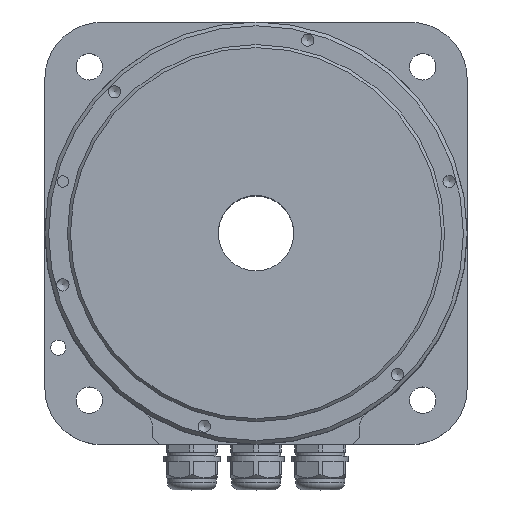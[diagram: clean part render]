
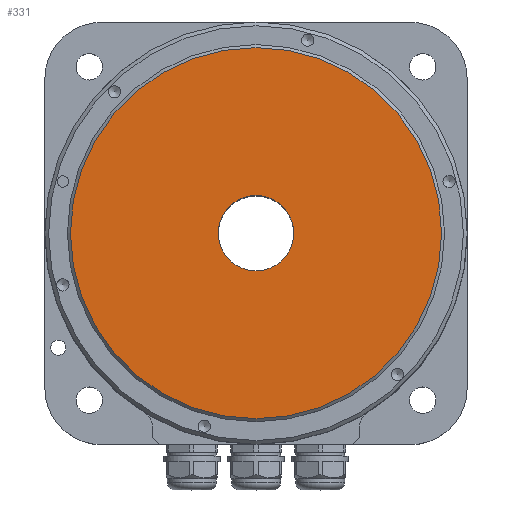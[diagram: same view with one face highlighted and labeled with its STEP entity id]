
A CAD part, top view. The second image highlights one B-rep face of the part: STEP entity #331.
In plain terms, the highlighted planar face has unit normal (0, 0, 1).
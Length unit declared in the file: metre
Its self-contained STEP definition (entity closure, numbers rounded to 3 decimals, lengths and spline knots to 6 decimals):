
#331 = ADVANCED_FACE( '', ( #645, #646 ), #647, .T. );
#645 = FACE_OUTER_BOUND( '', #1057, .T. );
#646 = FACE_BOUND( '', #1058, .T. );
#647 = PLANE( '', #1059 );
#1057 = EDGE_LOOP( '', ( #1794 ) );
#1058 = EDGE_LOOP( '', ( #1795 ) );
#1059 = AXIS2_PLACEMENT_3D( '', #1796, #1797, #1798 );
#1794 = ORIENTED_EDGE( '', *, *, #2373, .T. );
#1795 = ORIENTED_EDGE( '', *, *, #2392, .T. );
#1796 = CARTESIAN_POINT( '', ( -0.05, 0., 0.013 ) );
#1797 = DIRECTION( '', ( 0., 0., 1. ) );
#1798 = DIRECTION( '', ( 1., 0., 0. ) );
#2373 = EDGE_CURVE( '', #2807, #2807, #2808, .T. );
#2392 = EDGE_CURVE( '', #2841, #2841, #2842, .T. );
#2807 = VERTEX_POINT( '', #3518 );
#2808 = CIRCLE( '', #3519, 0.0492 );
#2841 = VERTEX_POINT( '', #3552 );
#2842 = CIRCLE( '', #3553, 0.01 );
#3518 = CARTESIAN_POINT( '', ( 0.0492, 0., 0.013 ) );
#3519 = AXIS2_PLACEMENT_3D( '', #4168, #4169, #4170 );
#3552 = CARTESIAN_POINT( '', ( -0.01, 0., 0.013 ) );
#3553 = AXIS2_PLACEMENT_3D( '', #4219, #4220, #4221 );
#4168 = CARTESIAN_POINT( '', ( 0., 0., 0.013 ) );
#4169 = DIRECTION( '', ( 0., 0., 1. ) );
#4170 = DIRECTION( '', ( 1., 0., 0. ) );
#4219 = CARTESIAN_POINT( '', ( 0., 0., 0.013 ) );
#4220 = DIRECTION( '', ( 0., 0., -1. ) );
#4221 = DIRECTION( '', ( -1., 0., 0. ) );
